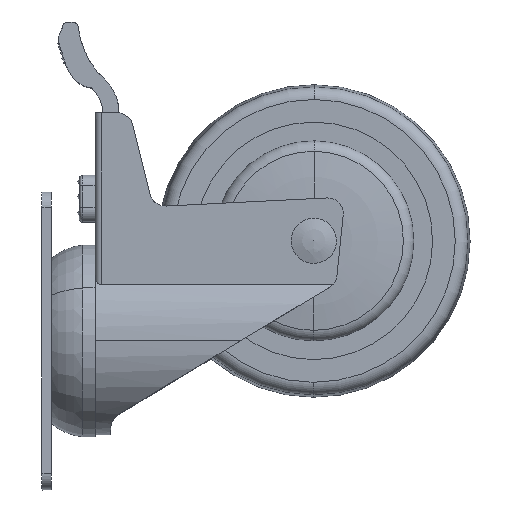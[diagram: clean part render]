
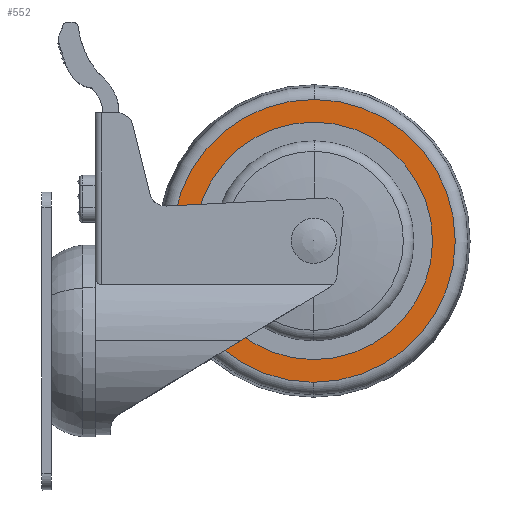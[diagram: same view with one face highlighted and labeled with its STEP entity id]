
A CAD part, left-side view. The second image highlights one B-rep face of the part: STEP entity #552.
In plain terms, the highlighted planar face has unit normal (-1, 0.001, 0.003) as drawn and (0, -1, 0) by its records, which use the part's own axes.
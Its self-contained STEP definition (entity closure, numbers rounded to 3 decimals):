
#221 = CARTESIAN_POINT ( 'NONE',  ( 0., -15., -45.258 ) ) ;
#261 = CARTESIAN_POINT ( 'NONE',  ( 0., -15., -38. ) ) ;
#552 = ADVANCED_FACE ( 'NONE', ( #659, #9072 ), #14006, .T. ) ;
#659 = FACE_BOUND ( 'NONE', #2130, .T. ) ;
#1181 = AXIS2_PLACEMENT_3D ( 'NONE', #3043, #27583, #30839 ) ;
#1618 = EDGE_CURVE ( 'NONE', #28124, #13853, #24929, .T. ) ;
#2086 = ORIENTED_EDGE ( 'NONE', *, *, #1618, .T. ) ;
#2130 = EDGE_LOOP ( 'NONE', ( #15275, #34003 ) ) ;
#2890 = VERTEX_POINT ( 'NONE', #261 ) ;
#2974 = CARTESIAN_POINT ( 'NONE',  ( 0., -15., 0. ) ) ;
#3043 = CARTESIAN_POINT ( 'NONE',  ( 0., -15., 0. ) ) ;
#3205 = VERTEX_POINT ( 'NONE', #3345 ) ;
#3345 = CARTESIAN_POINT ( 'NONE',  ( 0., -15., 38. ) ) ;
#4787 = CARTESIAN_POINT ( 'NONE',  ( 0., -15., 45.258 ) ) ;
#5544 = DIRECTION ( 'NONE',  ( 0., 0., -1. ) ) ;
#5772 = DIRECTION ( 'NONE',  ( 0., 0., 1. ) ) ;
#5852 = CIRCLE ( 'NONE', #1181, 38. ) ;
#6817 = AXIS2_PLACEMENT_3D ( 'NONE', #19672, #31559, #5772 ) ;
#8387 = CIRCLE ( 'NONE', #15983, 45.258 ) ;
#9072 = FACE_OUTER_BOUND ( 'NONE', #26320, .T. ) ;
#9165 = AXIS2_PLACEMENT_3D ( 'NONE', #23527, #24262, #29021 ) ;
#10914 = CARTESIAN_POINT ( 'NONE',  ( 0., -15., 0. ) ) ;
#12615 = CIRCLE ( 'NONE', #13197, 38. ) ;
#13197 = AXIS2_PLACEMENT_3D ( 'NONE', #10914, #13481, #19137 ) ;
#13481 = DIRECTION ( 'NONE',  ( 0., -1., 0. ) ) ;
#13853 = VERTEX_POINT ( 'NONE', #4787 ) ;
#14006 = PLANE ( 'NONE',  #6817 ) ;
#14879 = ORIENTED_EDGE ( 'NONE', *, *, #29373, .T. ) ;
#15275 = ORIENTED_EDGE ( 'NONE', *, *, #18885, .F. ) ;
#15983 = AXIS2_PLACEMENT_3D ( 'NONE', #2974, #30602, #5544 ) ;
#18885 = EDGE_CURVE ( 'NONE', #2890, #3205, #5852, .T. ) ;
#19137 = DIRECTION ( 'NONE',  ( 0., 0., -1. ) ) ;
#19672 = CARTESIAN_POINT ( 'NONE',  ( 49., -15., 0. ) ) ;
#23527 = CARTESIAN_POINT ( 'NONE',  ( 0., -15., 0. ) ) ;
#24262 = DIRECTION ( 'NONE',  ( 0., -1., 0. ) ) ;
#24929 = CIRCLE ( 'NONE', #9165, 45.258 ) ;
#26282 = EDGE_CURVE ( 'NONE', #3205, #2890, #12615, .T. ) ;
#26320 = EDGE_LOOP ( 'NONE', ( #2086, #14879 ) ) ;
#27583 = DIRECTION ( 'NONE',  ( 0., -1., 0. ) ) ;
#28124 = VERTEX_POINT ( 'NONE', #221 ) ;
#29021 = DIRECTION ( 'NONE',  ( 0., 0., -1. ) ) ;
#29373 = EDGE_CURVE ( 'NONE', #13853, #28124, #8387, .T. ) ;
#30602 = DIRECTION ( 'NONE',  ( 0., -1., 0. ) ) ;
#30839 = DIRECTION ( 'NONE',  ( 0., 0., -1. ) ) ;
#31559 = DIRECTION ( 'NONE',  ( 0., -1., 0. ) ) ;
#34003 = ORIENTED_EDGE ( 'NONE', *, *, #26282, .F. ) ;
